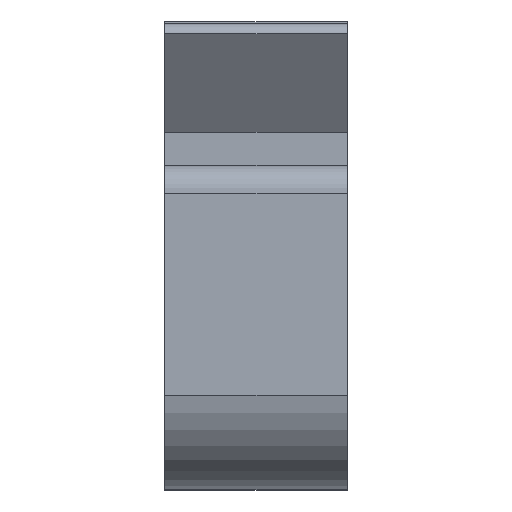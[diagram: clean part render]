
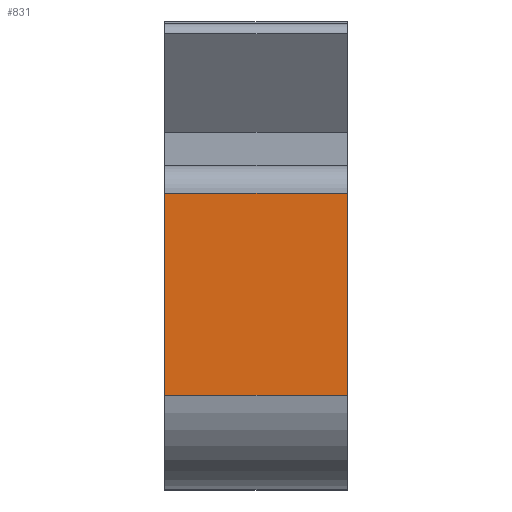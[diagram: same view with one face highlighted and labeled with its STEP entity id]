
A CAD part, left-side view. The second image highlights one B-rep face of the part: STEP entity #831.
In plain terms, the highlighted planar face has unit normal (-1, 0, 0).
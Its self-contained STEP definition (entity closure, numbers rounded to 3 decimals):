
#74 = EDGE_CURVE ( 'NONE', #569, #1337, #842, .T. ) ;
#101 = PLANE ( 'NONE',  #1309 ) ;
#112 = CARTESIAN_POINT ( 'NONE',  ( -286.89, 98., -33.265 ) ) ;
#283 = DIRECTION ( 'NONE',  ( 1., 0., 0. ) ) ;
#292 = CARTESIAN_POINT ( 'NONE',  ( -286.89, 0., -33.265 ) ) ;
#307 = ORIENTED_EDGE ( 'NONE', *, *, #1445, .F. ) ;
#402 = EDGE_LOOP ( 'NONE', ( #829, #1235, #307, #1381 ) ) ;
#451 = VECTOR ( 'NONE', #2199, 1000. ) ;
#569 = VERTEX_POINT ( 'NONE', #1291 ) ;
#572 = CARTESIAN_POINT ( 'NONE',  ( -286.89, 98., -33.265 ) ) ;
#829 = ORIENTED_EDGE ( 'NONE', *, *, #1059, .T. ) ;
#830 = DIRECTION ( 'NONE',  ( 0., 0., -1. ) ) ;
#831 = ADVANCED_FACE ( 'NONE', ( #1639 ), #101, .F. ) ;
#842 = LINE ( 'NONE', #1717, #451 ) ;
#934 = VECTOR ( 'NONE', #1997, 1000. ) ;
#959 = CARTESIAN_POINT ( 'NONE',  ( -286.89, 98., -33.265 ) ) ;
#1058 = CARTESIAN_POINT ( 'NONE',  ( -286.89, 98., -33.265 ) ) ;
#1059 = EDGE_CURVE ( 'NONE', #2035, #1337, #1962, .T. ) ;
#1153 = LINE ( 'NONE', #959, #934 ) ;
#1181 = VECTOR ( 'NONE', #1520, 1000. ) ;
#1235 = ORIENTED_EDGE ( 'NONE', *, *, #74, .F. ) ;
#1291 = CARTESIAN_POINT ( 'NONE',  ( -286.89, 98., 75.143 ) ) ;
#1309 = AXIS2_PLACEMENT_3D ( 'NONE', #112, #283, #830 ) ;
#1337 = VERTEX_POINT ( 'NONE', #1788 ) ;
#1381 = ORIENTED_EDGE ( 'NONE', *, *, #1829, .T. ) ;
#1403 = VECTOR ( 'NONE', #1927, 1000. ) ;
#1445 = EDGE_CURVE ( 'NONE', #1984, #569, #1153, .T. ) ;
#1520 = DIRECTION ( 'NONE',  ( 0., -1., 0. ) ) ;
#1632 = CARTESIAN_POINT ( 'NONE',  ( -286.89, 0., -33.265 ) ) ;
#1639 = FACE_OUTER_BOUND ( 'NONE', #402, .T. ) ;
#1717 = CARTESIAN_POINT ( 'NONE',  ( -286.89, 98., 75.143 ) ) ;
#1788 = CARTESIAN_POINT ( 'NONE',  ( -286.89, 0., 75.143 ) ) ;
#1829 = EDGE_CURVE ( 'NONE', #1984, #2035, #2093, .T. ) ;
#1927 = DIRECTION ( 'NONE',  ( 0., 0., 1. ) ) ;
#1962 = LINE ( 'NONE', #1632, #1403 ) ;
#1984 = VERTEX_POINT ( 'NONE', #572 ) ;
#1997 = DIRECTION ( 'NONE',  ( 0., 0., 1. ) ) ;
#2035 = VERTEX_POINT ( 'NONE', #292 ) ;
#2093 = LINE ( 'NONE', #1058, #1181 ) ;
#2199 = DIRECTION ( 'NONE',  ( 0., -1., 0. ) ) ;
